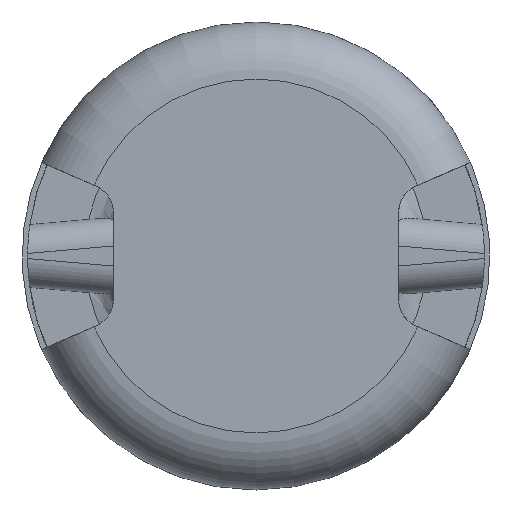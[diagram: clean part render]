
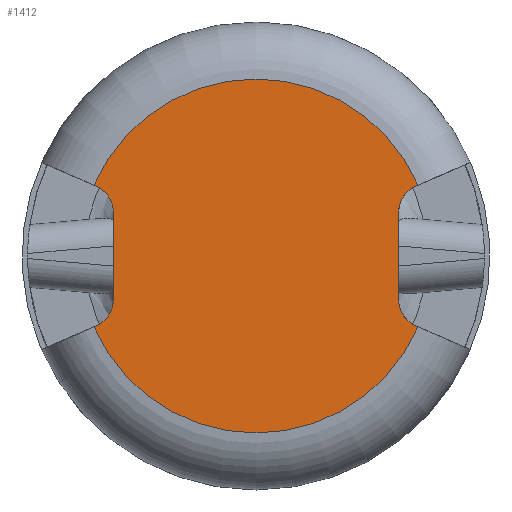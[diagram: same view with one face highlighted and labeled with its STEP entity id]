
A CAD part, left-side view. The second image highlights one B-rep face of the part: STEP entity #1412.
In plain terms, the highlighted planar face has unit normal (-1, 0, 0).
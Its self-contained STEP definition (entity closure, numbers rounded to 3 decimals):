
#914=CARTESIAN_POINT('',(-4.5,-2.84,1.242));
#915=VERTEX_POINT('',#914);
#952=CARTESIAN_POINT('',(-4.5,2.84,1.242));
#953=VERTEX_POINT('',#952);
#979=CARTESIAN_POINT('',(-4.5,0.,0.));
#980=DIRECTION('',(1.0,0.0,0.0));
#981=DIRECTION('',(0.0,0.0,1.0));
#982=AXIS2_PLACEMENT_3D('',#979,#980,#981);
#983=CIRCLE('',#982,3.1);
#984=EDGE_CURVE('',#953,#915,#983,.T.);
#995=CARTESIAN_POINT('',(-4.5,-2.801,1.225));
#996=VERTEX_POINT('',#995);
#997=CARTESIAN_POINT('',(-4.5,-2.84,1.242));
#998=DIRECTION('',(0.,0.917,-0.399));
#999=VECTOR('',#998,0.043);
#1000=LINE('',#997,#999);
#1001=EDGE_CURVE('',#915,#996,#1000,.T.);
#1032=CARTESIAN_POINT('',(-4.5,2.84,-1.242));
#1033=VERTEX_POINT('',#1032);
#1070=CARTESIAN_POINT('',(-4.5,-2.84,-1.242));
#1071=VERTEX_POINT('',#1070);
#1097=CARTESIAN_POINT('',(-4.5,0.,0.));
#1098=DIRECTION('',(1.0,0.0,0.0));
#1099=DIRECTION('',(0.0,0.0,-1.0));
#1100=AXIS2_PLACEMENT_3D('',#1097,#1098,#1099);
#1101=CIRCLE('',#1100,3.1);
#1102=EDGE_CURVE('',#1071,#1033,#1101,.T.);
#1113=CARTESIAN_POINT('',(-4.5,2.801,-1.225));
#1114=VERTEX_POINT('',#1113);
#1115=CARTESIAN_POINT('',(-4.5,2.84,-1.242));
#1116=DIRECTION('',(0.,-0.917,0.399));
#1117=VECTOR('',#1116,0.043);
#1118=LINE('',#1115,#1117);
#1119=EDGE_CURVE('',#1033,#1114,#1118,.T.);
#1159=CARTESIAN_POINT('',(-4.5,2.801,1.225));
#1160=VERTEX_POINT('',#1159);
#1167=CARTESIAN_POINT('',(-4.5,2.801,1.225));
#1168=DIRECTION('',(0.,0.917,0.399));
#1169=VECTOR('',#1168,0.043);
#1170=LINE('',#1167,#1169);
#1171=EDGE_CURVE('',#1160,#953,#1170,.T.);
#1197=CARTESIAN_POINT('',(-4.5,2.5,0.767));
#1198=VERTEX_POINT('',#1197);
#1205=CARTESIAN_POINT('',(-4.5,3.,0.767));
#1206=DIRECTION('',(-1.0,0.,0.));
#1207=DIRECTION('',(0.,1.0,0.));
#1208=AXIS2_PLACEMENT_3D('',#1205,#1206,#1207);
#1209=CIRCLE('',#1208,0.5);
#1210=EDGE_CURVE('',#1198,#1160,#1209,.T.);
#1223=CARTESIAN_POINT('',(-4.5,2.5,-0.767));
#1224=VERTEX_POINT('',#1223);
#1231=CARTESIAN_POINT('',(-4.5,2.5,-0.767));
#1232=DIRECTION('',(0.0,0.,1.0));
#1233=VECTOR('',#1232,1.533);
#1234=LINE('',#1231,#1233);
#1235=EDGE_CURVE('',#1224,#1198,#1234,.T.);
#1274=CARTESIAN_POINT('',(-4.5,3.,-0.767));
#1275=DIRECTION('',(-1.0,0.,0.));
#1276=DIRECTION('',(0.,0.399,0.917));
#1277=AXIS2_PLACEMENT_3D('',#1274,#1275,#1276);
#1278=CIRCLE('',#1277,0.5);
#1279=EDGE_CURVE('',#1114,#1224,#1278,.T.);
#1305=CARTESIAN_POINT('',(-4.5,-2.5,0.767));
#1306=VERTEX_POINT('',#1305);
#1307=CARTESIAN_POINT('',(-4.5,-3.,0.767));
#1308=DIRECTION('',(-1.,0.,0.));
#1309=DIRECTION('',(0.,-0.399,-0.917));
#1310=AXIS2_PLACEMENT_3D('',#1307,#1308,#1309);
#1311=CIRCLE('',#1310,0.5);
#1312=EDGE_CURVE('',#996,#1306,#1311,.T.);
#1373=CARTESIAN_POINT('',(-4.5,0.,-3.031));
#1374=DIRECTION('',(-1.0,0.0,0.0));
#1375=DIRECTION('',(0.0,0.0,1.0));
#1376=AXIS2_PLACEMENT_3D('',#1373,#1374,#1375);
#1377=PLANE('',#1376);
#1378=ORIENTED_EDGE('',*,*,#984,.F.);
#1379=ORIENTED_EDGE('',*,*,#1171,.F.);
#1380=ORIENTED_EDGE('',*,*,#1210,.F.);
#1381=ORIENTED_EDGE('',*,*,#1235,.F.);
#1382=ORIENTED_EDGE('',*,*,#1279,.F.);
#1383=ORIENTED_EDGE('',*,*,#1119,.F.);
#1384=ORIENTED_EDGE('',*,*,#1102,.F.);
#1385=CARTESIAN_POINT('',(-4.5,-2.801,-1.225));
#1386=VERTEX_POINT('',#1385);
#1387=CARTESIAN_POINT('',(-4.5,-2.801,-1.225));
#1388=DIRECTION('',(0.,-0.917,-0.399));
#1389=VECTOR('',#1388,0.043);
#1390=LINE('',#1387,#1389);
#1391=EDGE_CURVE('',#1386,#1071,#1390,.T.);
#1392=ORIENTED_EDGE('',*,*,#1391,.F.);
#1393=CARTESIAN_POINT('',(-4.5,-2.5,-0.767));
#1394=VERTEX_POINT('',#1393);
#1395=CARTESIAN_POINT('',(-4.5,-3.,-0.767));
#1396=DIRECTION('',(-1.0,0.,0.));
#1397=DIRECTION('',(0.,-1.0,0.));
#1398=AXIS2_PLACEMENT_3D('',#1395,#1396,#1397);
#1399=CIRCLE('',#1398,0.5);
#1400=EDGE_CURVE('',#1394,#1386,#1399,.T.);
#1401=ORIENTED_EDGE('',*,*,#1400,.F.);
#1402=CARTESIAN_POINT('',(-4.5,-2.5,0.767));
#1403=DIRECTION('',(0.0,0.,-1.0));
#1404=VECTOR('',#1403,1.533);
#1405=LINE('',#1402,#1404);
#1406=EDGE_CURVE('',#1306,#1394,#1405,.T.);
#1407=ORIENTED_EDGE('',*,*,#1406,.F.);
#1408=ORIENTED_EDGE('',*,*,#1312,.F.);
#1409=ORIENTED_EDGE('',*,*,#1001,.F.);
#1410=EDGE_LOOP('',(#1378,#1379,#1380,#1381,#1382,#1383,#1384,#1392,#1401,#1407,#1408,#1409));
#1411=FACE_OUTER_BOUND('',#1410,.T.);
#1412=ADVANCED_FACE('',(#1411),#1377,.T.);
